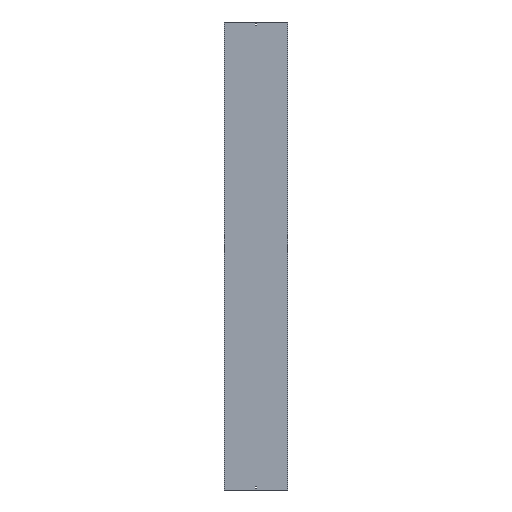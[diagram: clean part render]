
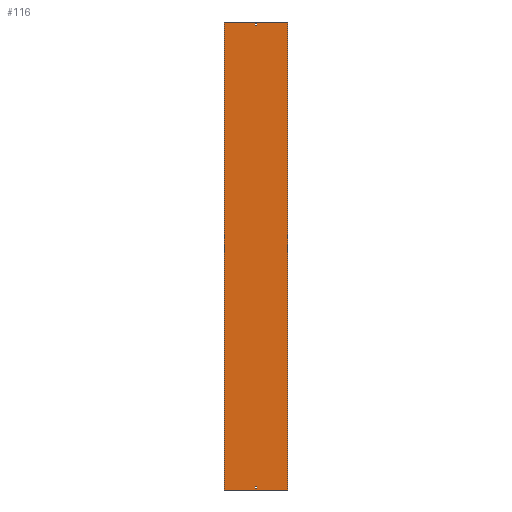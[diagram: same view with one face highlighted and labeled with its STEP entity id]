
A CAD part, front view. The second image highlights one B-rep face of the part: STEP entity #116.
In plain terms, the highlighted planar face has unit normal (0, -1, 0).
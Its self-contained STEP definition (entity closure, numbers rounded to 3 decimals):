
#38 = DIRECTION ( 'NONE',  ( -1., 0., 0. ) ) ;
#44 = VECTOR ( 'NONE', #75, 1000. ) ;
#60 = VERTEX_POINT ( 'NONE', #526 ) ;
#75 = DIRECTION ( 'NONE',  ( 0., 0., -1. ) ) ;
#80 = VECTOR ( 'NONE', #606, 1000. ) ;
#87 = EDGE_LOOP ( 'NONE', ( #178, #319, #664, #994 ) ) ;
#103 = ORIENTED_EDGE ( 'NONE', *, *, #353, .F. ) ;
#104 = LINE ( 'NONE', #370, #827 ) ;
#114 = LINE ( 'NONE', #708, #1066 ) ;
#116 = ADVANCED_FACE ( 'NONE', ( #731, #460, #409 ), #203, .F. ) ;
#165 = DIRECTION ( 'NONE',  ( 1., 0., 0. ) ) ;
#173 = VERTEX_POINT ( 'NONE', #372 ) ;
#178 = ORIENTED_EDGE ( 'NONE', *, *, #1107, .T. ) ;
#180 = CARTESIAN_POINT ( 'NONE',  ( 3.25, 0., 1488. ) ) ;
#183 = VERTEX_POINT ( 'NONE', #983 ) ;
#188 = VERTEX_POINT ( 'NONE', #813 ) ;
#190 = VECTOR ( 'NONE', #312, 1000. ) ;
#203 = PLANE ( 'NONE',  #612 ) ;
#210 = CARTESIAN_POINT ( 'NONE',  ( -202., 0., 1500. ) ) ;
#215 = VERTEX_POINT ( 'NONE', #818 ) ;
#237 = LINE ( 'NONE', #1020, #614 ) ;
#243 = EDGE_CURVE ( 'NONE', #780, #641, #672, .T. ) ;
#246 = VECTOR ( 'NONE', #1033, 1000. ) ;
#278 = CARTESIAN_POINT ( 'NONE',  ( -202., 0., 1500. ) ) ;
#281 = VERTEX_POINT ( 'NONE', #846 ) ;
#289 = DIRECTION ( 'NONE',  ( 0., 0., -1. ) ) ;
#300 = CARTESIAN_POINT ( 'NONE',  ( 3.25, 0., 1488. ) ) ;
#305 = ORIENTED_EDGE ( 'NONE', *, *, #439, .F. ) ;
#312 = DIRECTION ( 'NONE',  ( 0., 0., -1. ) ) ;
#319 = ORIENTED_EDGE ( 'NONE', *, *, #637, .F. ) ;
#335 = LINE ( 'NONE', #838, #44 ) ;
#340 = VECTOR ( 'NONE', #959, 1000. ) ;
#353 = EDGE_CURVE ( 'NONE', #591, #173, #535, .T. ) ;
#370 = CARTESIAN_POINT ( 'NONE',  ( -202., 0., 1500. ) ) ;
#372 = CARTESIAN_POINT ( 'NONE',  ( -3.25, 0., 1488. ) ) ;
#373 = VERTEX_POINT ( 'NONE', #725 ) ;
#409 = FACE_BOUND ( 'NONE', #784, .T. ) ;
#410 = VECTOR ( 'NONE', #475, 1000. ) ;
#414 = EDGE_CURVE ( 'NONE', #474, #183, #104, .T. ) ;
#439 = EDGE_CURVE ( 'NONE', #173, #1071, #1073, .T. ) ;
#449 = CARTESIAN_POINT ( 'NONE',  ( -3.25, 0., 1488. ) ) ;
#454 = DIRECTION ( 'NONE',  ( 0., 0., 1. ) ) ;
#460 = FACE_BOUND ( 'NONE', #945, .T. ) ;
#474 = VERTEX_POINT ( 'NONE', #278 ) ;
#475 = DIRECTION ( 'NONE',  ( 1., 0., 0. ) ) ;
#483 = ORIENTED_EDGE ( 'NONE', *, *, #501, .T. ) ;
#487 = EDGE_CURVE ( 'NONE', #281, #591, #888, .T. ) ;
#489 = CARTESIAN_POINT ( 'NONE',  ( -3.25, 0., -1479. ) ) ;
#501 = EDGE_CURVE ( 'NONE', #373, #780, #114, .T. ) ;
#526 = CARTESIAN_POINT ( 'NONE',  ( 202., 0., 1500. ) ) ;
#535 = LINE ( 'NONE', #817, #736 ) ;
#551 = CARTESIAN_POINT ( 'NONE',  ( 3.25, 0., -1488. ) ) ;
#558 = LINE ( 'NONE', #551, #190 ) ;
#562 = ORIENTED_EDGE ( 'NONE', *, *, #243, .T. ) ;
#564 = ORIENTED_EDGE ( 'NONE', *, *, #872, .F. ) ;
#591 = VERTEX_POINT ( 'NONE', #300 ) ;
#606 = DIRECTION ( 'NONE',  ( 0., 0., 1. ) ) ;
#612 = AXIS2_PLACEMENT_3D ( 'NONE', #210, #1074, #38 ) ;
#614 = VECTOR ( 'NONE', #165, 1000. ) ;
#629 = VECTOR ( 'NONE', #454, 1000. ) ;
#637 = EDGE_CURVE ( 'NONE', #60, #188, #335, .T. ) ;
#641 = VERTEX_POINT ( 'NONE', #1022 ) ;
#664 = ORIENTED_EDGE ( 'NONE', *, *, #996, .F. ) ;
#672 = LINE ( 'NONE', #1041, #80 ) ;
#708 = CARTESIAN_POINT ( 'NONE',  ( -3.25, 0., -1488. ) ) ;
#716 = DIRECTION ( 'NONE',  ( -1., 0., 0. ) ) ;
#725 = CARTESIAN_POINT ( 'NONE',  ( 3.25, 0., -1488. ) ) ;
#731 = FACE_OUTER_BOUND ( 'NONE', #87, .T. ) ;
#736 = VECTOR ( 'NONE', #716, 1000. ) ;
#779 = LINE ( 'NONE', #489, #246 ) ;
#780 = VERTEX_POINT ( 'NONE', #1052 ) ;
#784 = EDGE_LOOP ( 'NONE', ( #562, #903, #1119, #483 ) ) ;
#791 = LINE ( 'NONE', #1046, #340 ) ;
#813 = CARTESIAN_POINT ( 'NONE',  ( 202., 0., -1500. ) ) ;
#817 = CARTESIAN_POINT ( 'NONE',  ( -3.25, 0., 1488. ) ) ;
#818 = CARTESIAN_POINT ( 'NONE',  ( 3.25, 0., -1479. ) ) ;
#827 = VECTOR ( 'NONE', #893, 1000. ) ;
#838 = CARTESIAN_POINT ( 'NONE',  ( 202., 0., 1500. ) ) ;
#846 = CARTESIAN_POINT ( 'NONE',  ( 3.25, 0., 1479. ) ) ;
#872 = EDGE_CURVE ( 'NONE', #1071, #281, #791, .T. ) ;
#888 = LINE ( 'NONE', #180, #629 ) ;
#893 = DIRECTION ( 'NONE',  ( 0., 0., -1. ) ) ;
#896 = CARTESIAN_POINT ( 'NONE',  ( -202., 0., 1500. ) ) ;
#899 = VECTOR ( 'NONE', #289, 1000. ) ;
#903 = ORIENTED_EDGE ( 'NONE', *, *, #1043, .T. ) ;
#909 = LINE ( 'NONE', #896, #410 ) ;
#924 = EDGE_CURVE ( 'NONE', #215, #373, #558, .T. ) ;
#928 = CARTESIAN_POINT ( 'NONE',  ( -3.25, 0., 1479. ) ) ;
#945 = EDGE_LOOP ( 'NONE', ( #564, #305, #103, #1126 ) ) ;
#959 = DIRECTION ( 'NONE',  ( 1., 0., 0. ) ) ;
#983 = CARTESIAN_POINT ( 'NONE',  ( -202., 0., -1500. ) ) ;
#994 = ORIENTED_EDGE ( 'NONE', *, *, #414, .T. ) ;
#996 = EDGE_CURVE ( 'NONE', #474, #60, #909, .T. ) ;
#1020 = CARTESIAN_POINT ( 'NONE',  ( -202., 0., -1500. ) ) ;
#1022 = CARTESIAN_POINT ( 'NONE',  ( -3.25, 0., -1479. ) ) ;
#1033 = DIRECTION ( 'NONE',  ( 1., 0., 0. ) ) ;
#1041 = CARTESIAN_POINT ( 'NONE',  ( -3.25, 0., -1488. ) ) ;
#1043 = EDGE_CURVE ( 'NONE', #641, #215, #779, .T. ) ;
#1046 = CARTESIAN_POINT ( 'NONE',  ( -3.25, 0., 1479. ) ) ;
#1052 = CARTESIAN_POINT ( 'NONE',  ( -3.25, 0., -1488. ) ) ;
#1053 = DIRECTION ( 'NONE',  ( -1., 0., 0. ) ) ;
#1066 = VECTOR ( 'NONE', #1053, 1000. ) ;
#1071 = VERTEX_POINT ( 'NONE', #928 ) ;
#1073 = LINE ( 'NONE', #449, #899 ) ;
#1074 = DIRECTION ( 'NONE',  ( 0., 1., 0. ) ) ;
#1107 = EDGE_CURVE ( 'NONE', #183, #188, #237, .T. ) ;
#1119 = ORIENTED_EDGE ( 'NONE', *, *, #924, .T. ) ;
#1126 = ORIENTED_EDGE ( 'NONE', *, *, #487, .F. ) ;
